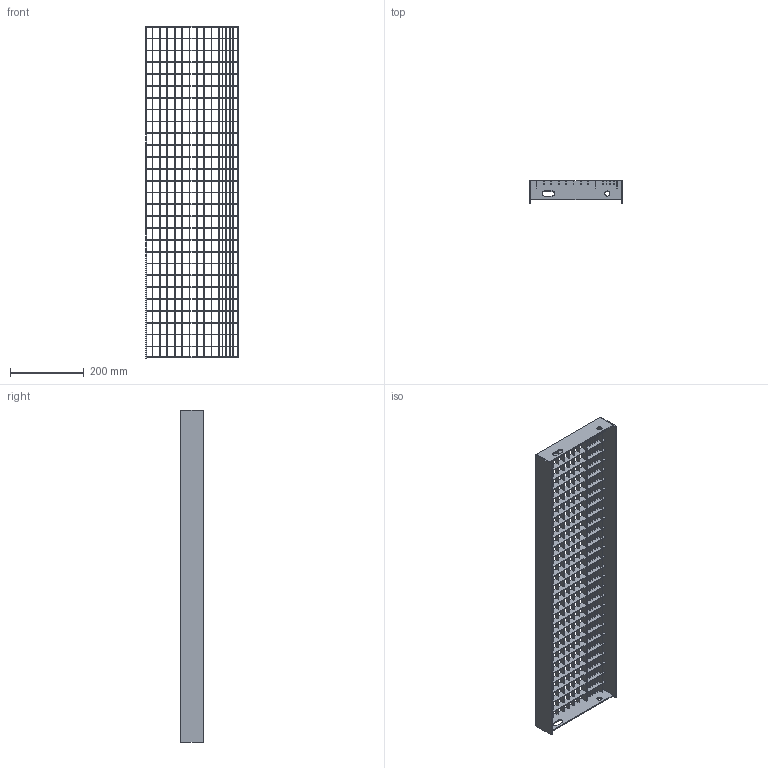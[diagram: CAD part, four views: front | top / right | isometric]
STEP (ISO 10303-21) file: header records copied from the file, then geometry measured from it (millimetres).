
FILE_DESCRIPTION (( 'STEP AP203' ), '1' );
FILE_NAME ('23007259S_ Gitterristetrin_250x900mm.STEP', '2014-12-15T12:47:19', ( '' ), ( '' ), 'SwSTEP 2.0', 'SolidWorks 2013', '' );
FILE_SCHEMA (( 'CONFIG_CONTROL_DESIGN' ));
Length unit declared in the file: millimetre
Products named in the file (9): Baereribbe_20x2x244; Fylderibbe_10x2x894mm; Fylderibbe_m_savtak_10x2x894mm; Styreribbe_20x2x894mm; Styreribbe_m_savtak_20x2x894mm; 23007259S_ Gitterristetrin_250x900mm; Endestykke_50x3x244mm; Kantstaal_60x3x900mm; Kantstaal_m_savtak_60x3x900mm (2)
Assembly tree (45 placements, depth 2):
  23007259S_ Gitterristetrin_250x900mm
    Endestykke_50x3x244mm  x2
    Kantstaal_60x3x900mm
    Kantstaal_m_savtak_60x3x900mm (2)
    Baereribbe_20x2x244  x27
    Fylderibbe_10x2x894mm  x7
    Fylderibbe_m_savtak_10x2x894mm  x4
    Styreribbe_20x2x894mm  x2
    Styreribbe_m_savtak_20x2x894mm
Bounding box: 250 x 60 x 900 mm (x, y, z)
Volume: 930877.2 mm3; surface area: 916520.4 mm2
Topology: 45 solids, 45 shells, 5140 faces, 15150 edges, 10100 vertices
Faces by surface type: plane 4378, cylinder 762
Full cylindrical faces by diameter (mm): 14 x2
Entity records: 63165 total; most frequent: CARTESIAN_POINT 10989, ORIENTED_EDGE 10924, DIRECTION 9994, EDGE_CURVE 5462, LINE 4700, VECTOR 4700, VERTEX_POINT 3642, AXIS2_PLACEMENT_3D 2647
